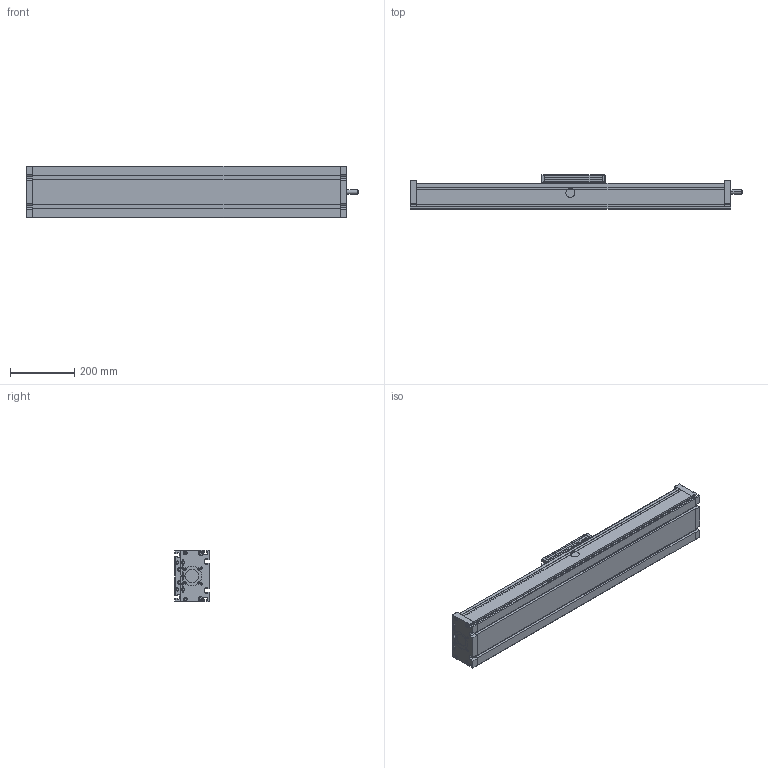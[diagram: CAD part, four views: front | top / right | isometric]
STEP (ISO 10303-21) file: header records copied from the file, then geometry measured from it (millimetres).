
FILE_DESCRIPTION (( 'STEP AP214' ), '1' );
FILE_NAME ('DSTK-160.STEP', '2016-01-14T09:37:57', ( 'admin' ), ( '' ), 'SwSTEP 2.0', 'SolidWorks 2015', '' );
FILE_SCHEMA (( 'AUTOMOTIVE_DESIGN' ));
Length unit declared in the file: millimetre
Products named in the file (5): Kopie von Bahr-DST-DSK-DST-160   1  0  0 0  0 0 0  760_DSTK End Plate 160 (B)^DST(K)160 S0 A0_0; Kopie von Bahr-DST-DSK-DST-160   1  0  0 0  0 0 0  760_DSTK End Plate 160 (A)^DST(K)160 S0 A0_1; DSTK-160; Kopie von Bahr-DST-DSK-DST-160   1  0  0 0  0 0 0  760_DSTK Carriage 160^DST(K)160 S0 A0_0; Kopie von Bahr-DST-DSK-DST-160   1  0  0 0  0 0 0  760_DSTK Extrusion 160^DST(K)160 S0 A0
Assembly tree (4 placements, depth 2):
  DSTK-160
    Kopie von Bahr-DST-DSK-DST-160   1  0  0 0  0 0 0  760_DSTK End Plate 160 (A)^DST(K)160 S0 A0_1
    Kopie von Bahr-DST-DSK-DST-160   1  0  0 0  0 0 0  760_DSTK End Plate 160 (B)^DST(K)160 S0 A0_0
    Kopie von Bahr-DST-DSK-DST-160   1  0  0 0  0 0 0  760_DSTK Extrusion 160^DST(K)160 S0 A0
    Kopie von Bahr-DST-DSK-DST-160   1  0  0 0  0 0 0  760_DSTK Carriage 160^DST(K)160 S0 A0_0
Bounding box: 1035 x 106 x 160.2 mm (x, y, z)
Volume: 12835048 mm3; surface area: 849250.3 mm2
Topology: 8 solids, 8 shells, 807 faces, 2083 edges, 1369 vertices
Faces by surface type: plane 501, cylinder 275, cone 23, sphere 8
Entity records: 25427 total; most frequent: CARTESIAN_POINT 4436, DIRECTION 4268, ORIENTED_EDGE 4150, EDGE_CURVE 2075, VECTOR 1482, LINE 1482, AXIS2_PLACEMENT_3D 1393, VERTEX_POINT 1369
